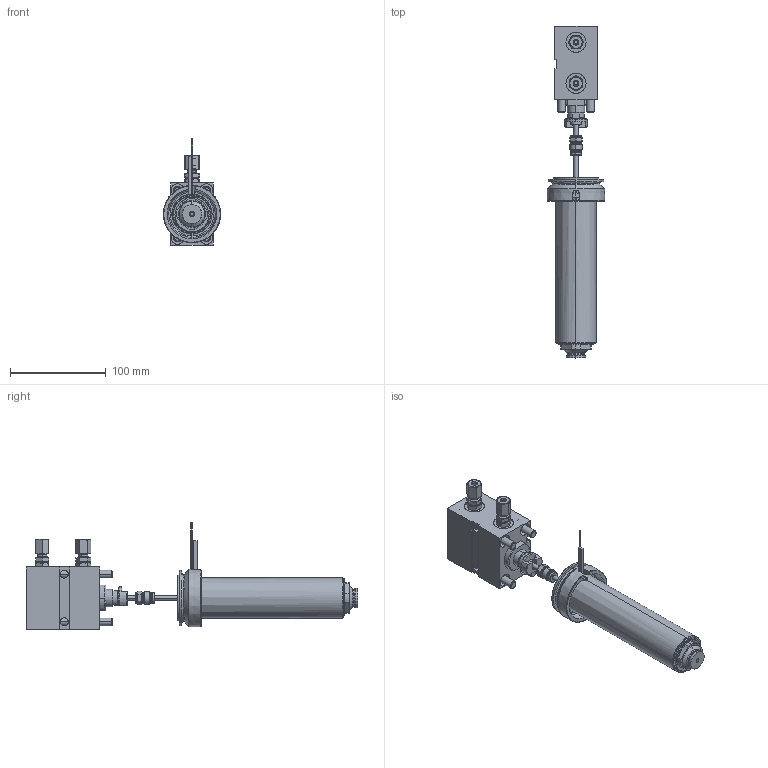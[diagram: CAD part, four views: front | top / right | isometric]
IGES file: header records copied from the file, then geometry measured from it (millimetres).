
Start section: Write IGES format                                    datakit 2008 (c)
Global section: file name: Unknown; native system: DATAKIT Converter; preprocessor: Unknown; author: Unknown; organization: Unknown; date: 950613.180003; units: millimetre
Bounding box: 59.99 x 347.5 x 111.15 mm (x, y, z)
Surface area: 186193.3 mm2 (no closed solid volume)
Topology: 0 solids, 0 shells, 799 faces, 3616 edges, 3598 vertices
Faces by surface type: revolution 516, bspline 283
